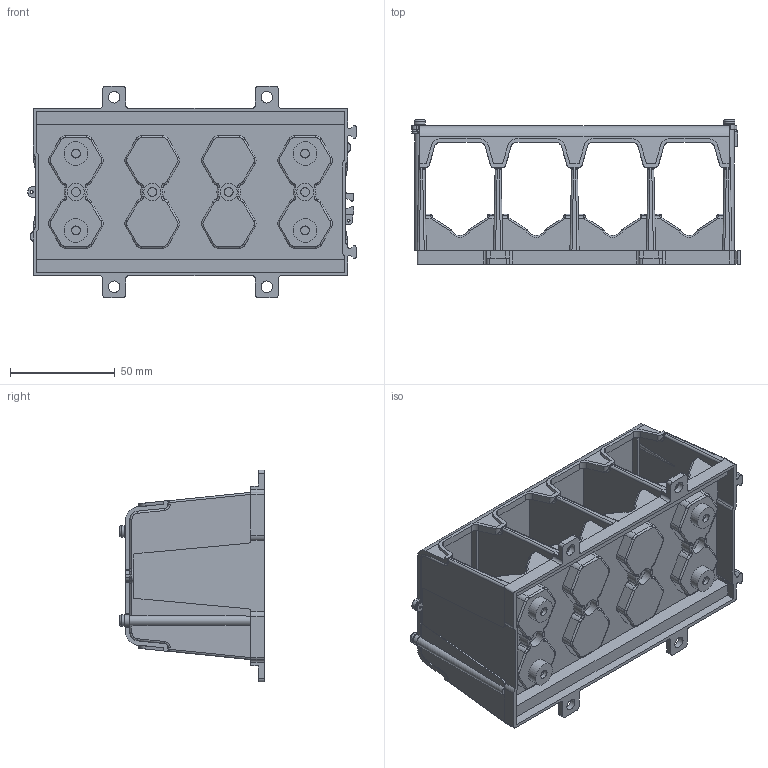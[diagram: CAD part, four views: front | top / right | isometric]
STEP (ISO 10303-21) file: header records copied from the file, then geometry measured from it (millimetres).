
FILE_DESCRIPTION(/* description */ ('Unknown'),/* implementation_level */ '2;1');
FILE_NAME(/* name */ 'DTS 4x',/* time_stamp */ '2024-05-20T11:19:58+02:00',/* author */ ('Unknown'),/* organization */ ('Unknown'),/* preprocessor_version */ 'ST-DEVELOPER v18.104',/* originating_system */ 'Solid Edge',/* authorisation */ 'Unknown');
FILE_SCHEMA (('AUTOMOTIVE_DESIGN {1 0 10303 214 3 1 1}'));
Products named in the file (1): DTS 4x
Bounding box: 156.85 x 69.2 x 101.2 mm (x, y, z)
Volume: 133214.5 mm3; surface area: 117051.3 mm2
Topology: 1 solids, 1 shells, 1909 faces, 5196 edges, 3047 vertices
Faces by surface type: plane 796, cylinder 745, torus 185, sphere 96, bspline 87
Full cylindrical faces by diameter (mm): 1.4 x3, 4.2 x8, 5.4 x2, 5.5 x6, 8 x4, 8.2 x4, 11.3 x4
Entity records: 59020 total; most frequent: CARTESIAN_POINT 12010, DIRECTION 10233, ORIENTED_EDGE 9722, EDGE_CURVE 4861, AXIS2_PLACEMENT_3D 3677, VERTEX_POINT 3010, LINE 2879, VECTOR 2879
